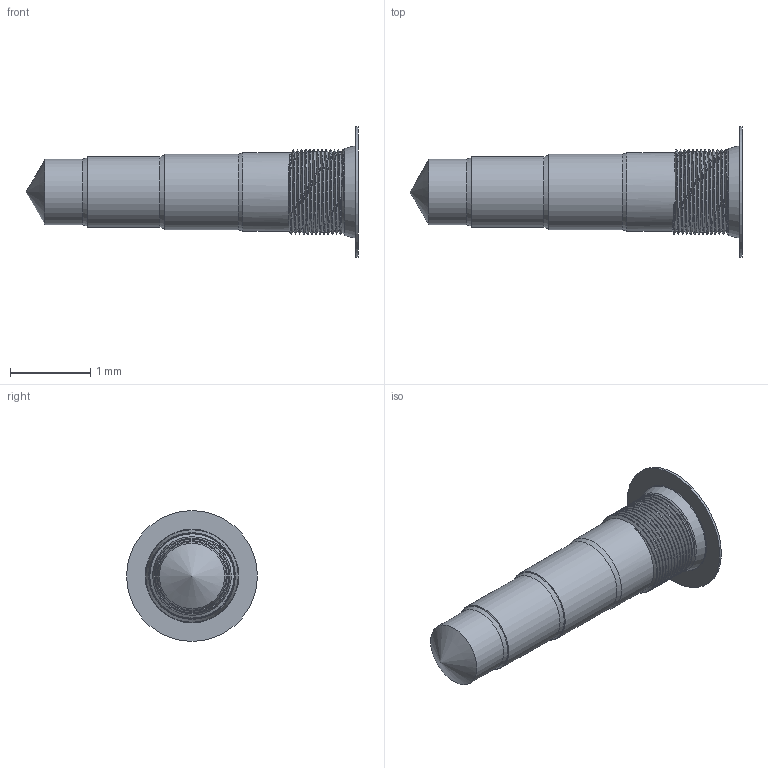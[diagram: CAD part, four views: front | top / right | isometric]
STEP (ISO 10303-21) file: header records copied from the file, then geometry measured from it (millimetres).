
FILE_DESCRIPTION(/* description */ (''),/* implementation_level */ '2;1');
FILE_NAME(/* name */ '\\tecnord.com\reparti\25-CAD_3D\ATTREZZATURE\Cavità\Tecnord 4WS.stp',/* time_stamp */ '2016-12-06T12:30:09+01:00',/* author */ ('gmonti'),/* organization */ (''),/* preprocessor_version */ 'ST-DEVELOPER v16.1',/* originating_system */ 'Autodesk Inventor 2016',/* authorisation */ '');
FILE_SCHEMA (('AUTOMOTIVE_DESIGN { 1 0 10303 214 3 1 1 }'));
Length unit declared in the file: millimetre
Products named in the file (1): Tecnord 4WS
Bounding box: 4.13 x 1.62 x 1.62 mm (x, y, z)
Volume: 2.8 mm3; surface area: 17.1 mm2
Topology: 1 solids, 1 shells, 25 faces, 56 edges, 35 vertices
Faces by surface type: cone 9, cylinder 5, torus 4, plane 4, bspline 3
Full cylindrical faces by diameter (mm): 0.813 x1, 0.876 x1, 0.938 x1, 0.975 x1, 1.625 x1
Entity records: 2412 total; most frequent: CARTESIAN_POINT 1952, DIRECTION 83, ORIENTED_EDGE 74, AXIS2_PLACEMENT_3D 41, EDGE_LOOP 40, EDGE_CURVE 37, VERTEX_POINT 31, FACE_OUTER_BOUND 24
